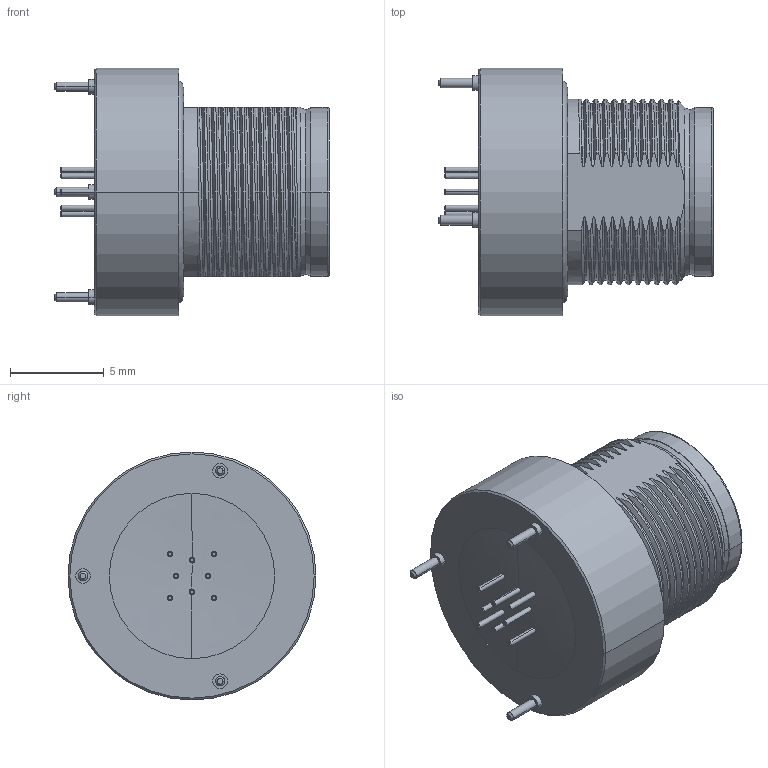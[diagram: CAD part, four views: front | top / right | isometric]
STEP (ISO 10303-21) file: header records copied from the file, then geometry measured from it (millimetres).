
FILE_DESCRIPTION((''),'2;1');
FILE_NAME('00116901-D_ASM','2020-10-30T11:33:42',('EUnterhaslberger'),(''),'CREO PARAMETRIC BY PTC INC, 2018300','CREO PARAMETRIC BY PTC INC, 2018300','');
FILE_SCHEMA(('AP242_MANAGED_MODEL_BASED_3D_ENGINEERING_MIM_LF { 1 0 10303 442 1 1 4 }'));
Length unit declared in the file: millimetre
Products named in the file (4): TEMP_SW_STEP_MONOBLOCK_1_1; TEMP_SW_STEP_MONOBLOCK_1_2; TEMP_SW_STEP_MONOBLOCK_1_ASM; 00116901-D_ASM
Assembly tree (3 placements, depth 3):
  00116901-D_ASM
    TEMP_SW_STEP_MONOBLOCK_1_ASM
      TEMP_SW_STEP_MONOBLOCK_1_1
      TEMP_SW_STEP_MONOBLOCK_1_2
Bounding box: 14.6 x 13.2 x 13.2 mm (x, y, z)
Volume: 904.3 mm3; surface area: 1217.5 mm2
Topology: 2 solids, 2 shells, 375 faces, 1011 edges, 681 vertices
Faces by surface type: cylinder 118, plane 110, bspline 72, cone 52, torus 23
Entity records: 24703 total; most frequent: CARTESIAN_POINT 12924, ORIENTED_EDGE 2018, DIRECTION 1686, EDGE_CURVE 1009, AXIS2_PLACEMENT_3D 683, VERTEX_POINT 681, EDGE_LOOP 420, FACE_OUTER_BOUND 375
